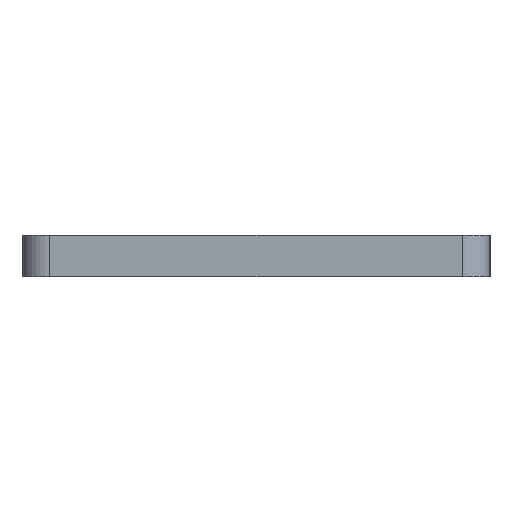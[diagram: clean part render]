
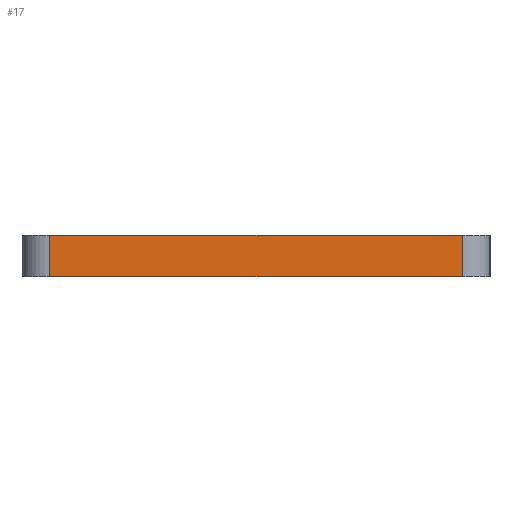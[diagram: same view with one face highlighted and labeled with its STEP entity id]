
A CAD part, left-side view. The second image highlights one B-rep face of the part: STEP entity #17.
In plain terms, the highlighted planar face has unit normal (-1, 0, 0).
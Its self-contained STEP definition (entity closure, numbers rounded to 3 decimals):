
#17 = ADVANCED_FACE('',(#18),#32,.F.);
#18 = FACE_BOUND('',#19,.F.);
#19 = EDGE_LOOP('',(#20,#55,#83,#111));
#20 = ORIENTED_EDGE('',*,*,#21,.F.);
#21 = EDGE_CURVE('',#22,#24,#26,.T.);
#22 = VERTEX_POINT('',#23);
#23 = CARTESIAN_POINT('',(-50.,-15.,3.));
#24 = VERTEX_POINT('',#25);
#25 = CARTESIAN_POINT('',(-50.,15.,3.));
#26 = SURFACE_CURVE('',#27,(#31,#43),.PCURVE_S1.);
#27 = LINE('',#28,#29);
#28 = CARTESIAN_POINT('',(-50.,-17.,3.));
#29 = VECTOR('',#30,1.);
#30 = DIRECTION('',(0.,1.,0.));
#31 = PCURVE('',#32,#37);
#32 = PLANE('',#33);
#33 = AXIS2_PLACEMENT_3D('',#34,#35,#36);
#34 = CARTESIAN_POINT('',(-50.,-17.,0.));
#35 = DIRECTION('',(1.,0.,0.));
#36 = DIRECTION('',(0.,0.,1.));
#37 = DEFINITIONAL_REPRESENTATION('',(#38),#42);
#38 = LINE('',#39,#40);
#39 = CARTESIAN_POINT('',(3.,0.));
#40 = VECTOR('',#41,1.);
#41 = DIRECTION('',(0.,-1.));
#42 = ( GEOMETRIC_REPRESENTATION_CONTEXT(2) 
PARAMETRIC_REPRESENTATION_CONTEXT() REPRESENTATION_CONTEXT('2D SPACE',''
  ) );
#43 = PCURVE('',#44,#49);
#44 = PLANE('',#45);
#45 = AXIS2_PLACEMENT_3D('',#46,#47,#48);
#46 = CARTESIAN_POINT('',(-50.,-17.,3.));
#47 = DIRECTION('',(0.,0.,1.));
#48 = DIRECTION('',(1.,0.,0.));
#49 = DEFINITIONAL_REPRESENTATION('',(#50),#54);
#50 = LINE('',#51,#52);
#51 = CARTESIAN_POINT('',(0.,0.));
#52 = VECTOR('',#53,1.);
#53 = DIRECTION('',(0.,1.));
#54 = ( GEOMETRIC_REPRESENTATION_CONTEXT(2) 
PARAMETRIC_REPRESENTATION_CONTEXT() REPRESENTATION_CONTEXT('2D SPACE',''
  ) );
#55 = ORIENTED_EDGE('',*,*,#56,.F.);
#56 = EDGE_CURVE('',#57,#22,#59,.T.);
#57 = VERTEX_POINT('',#58);
#58 = CARTESIAN_POINT('',(-50.,-15.,0.));
#59 = SURFACE_CURVE('',#60,(#64,#71),.PCURVE_S1.);
#60 = LINE('',#61,#62);
#61 = CARTESIAN_POINT('',(-50.,-15.,0.));
#62 = VECTOR('',#63,1.);
#63 = DIRECTION('',(0.,0.,1.));
#64 = PCURVE('',#32,#65);
#65 = DEFINITIONAL_REPRESENTATION('',(#66),#70);
#66 = LINE('',#67,#68);
#67 = CARTESIAN_POINT('',(0.,-2.));
#68 = VECTOR('',#69,1.);
#69 = DIRECTION('',(1.,0.));
#70 = ( GEOMETRIC_REPRESENTATION_CONTEXT(2) 
PARAMETRIC_REPRESENTATION_CONTEXT() REPRESENTATION_CONTEXT('2D SPACE',''
  ) );
#71 = PCURVE('',#72,#77);
#72 = CYLINDRICAL_SURFACE('',#73,2.);
#73 = AXIS2_PLACEMENT_3D('',#74,#75,#76);
#74 = CARTESIAN_POINT('',(-48.,-15.,0.));
#75 = DIRECTION('',(0.,0.,1.));
#76 = DIRECTION('',(-1.,-0.,0.));
#77 = DEFINITIONAL_REPRESENTATION('',(#78),#82);
#78 = LINE('',#79,#80);
#79 = CARTESIAN_POINT('',(0.,0.));
#80 = VECTOR('',#81,1.);
#81 = DIRECTION('',(0.,1.));
#82 = ( GEOMETRIC_REPRESENTATION_CONTEXT(2) 
PARAMETRIC_REPRESENTATION_CONTEXT() REPRESENTATION_CONTEXT('2D SPACE',''
  ) );
#83 = ORIENTED_EDGE('',*,*,#84,.T.);
#84 = EDGE_CURVE('',#57,#85,#87,.T.);
#85 = VERTEX_POINT('',#86);
#86 = CARTESIAN_POINT('',(-50.,15.,0.));
#87 = SURFACE_CURVE('',#88,(#92,#99),.PCURVE_S1.);
#88 = LINE('',#89,#90);
#89 = CARTESIAN_POINT('',(-50.,-17.,0.));
#90 = VECTOR('',#91,1.);
#91 = DIRECTION('',(0.,1.,0.));
#92 = PCURVE('',#32,#93);
#93 = DEFINITIONAL_REPRESENTATION('',(#94),#98);
#94 = LINE('',#95,#96);
#95 = CARTESIAN_POINT('',(0.,0.));
#96 = VECTOR('',#97,1.);
#97 = DIRECTION('',(0.,-1.));
#98 = ( GEOMETRIC_REPRESENTATION_CONTEXT(2) 
PARAMETRIC_REPRESENTATION_CONTEXT() REPRESENTATION_CONTEXT('2D SPACE',''
  ) );
#99 = PCURVE('',#100,#105);
#100 = PLANE('',#101);
#101 = AXIS2_PLACEMENT_3D('',#102,#103,#104);
#102 = CARTESIAN_POINT('',(-50.,-17.,0.));
#103 = DIRECTION('',(0.,0.,1.));
#104 = DIRECTION('',(1.,0.,0.));
#105 = DEFINITIONAL_REPRESENTATION('',(#106),#110);
#106 = LINE('',#107,#108);
#107 = CARTESIAN_POINT('',(0.,0.));
#108 = VECTOR('',#109,1.);
#109 = DIRECTION('',(0.,1.));
#110 = ( GEOMETRIC_REPRESENTATION_CONTEXT(2) 
PARAMETRIC_REPRESENTATION_CONTEXT() REPRESENTATION_CONTEXT('2D SPACE',''
  ) );
#111 = ORIENTED_EDGE('',*,*,#112,.T.);
#112 = EDGE_CURVE('',#85,#24,#113,.T.);
#113 = SURFACE_CURVE('',#114,(#118,#125),.PCURVE_S1.);
#114 = LINE('',#115,#116);
#115 = CARTESIAN_POINT('',(-50.,15.,0.));
#116 = VECTOR('',#117,1.);
#117 = DIRECTION('',(0.,0.,1.));
#118 = PCURVE('',#32,#119);
#119 = DEFINITIONAL_REPRESENTATION('',(#120),#124);
#120 = LINE('',#121,#122);
#121 = CARTESIAN_POINT('',(0.,-32.));
#122 = VECTOR('',#123,1.);
#123 = DIRECTION('',(1.,0.));
#124 = ( GEOMETRIC_REPRESENTATION_CONTEXT(2) 
PARAMETRIC_REPRESENTATION_CONTEXT() REPRESENTATION_CONTEXT('2D SPACE',''
  ) );
#125 = PCURVE('',#126,#131);
#126 = CYLINDRICAL_SURFACE('',#127,2.);
#127 = AXIS2_PLACEMENT_3D('',#128,#129,#130);
#128 = CARTESIAN_POINT('',(-48.,15.,0.));
#129 = DIRECTION('',(0.,0.,1.));
#130 = DIRECTION('',(-1.,-0.,0.));
#131 = DEFINITIONAL_REPRESENTATION('',(#132),#136);
#132 = LINE('',#133,#134);
#133 = CARTESIAN_POINT('',(-0.,0.));
#134 = VECTOR('',#135,1.);
#135 = DIRECTION('',(-0.,1.));
#136 = ( GEOMETRIC_REPRESENTATION_CONTEXT(2) 
PARAMETRIC_REPRESENTATION_CONTEXT() REPRESENTATION_CONTEXT('2D SPACE',''
  ) );
